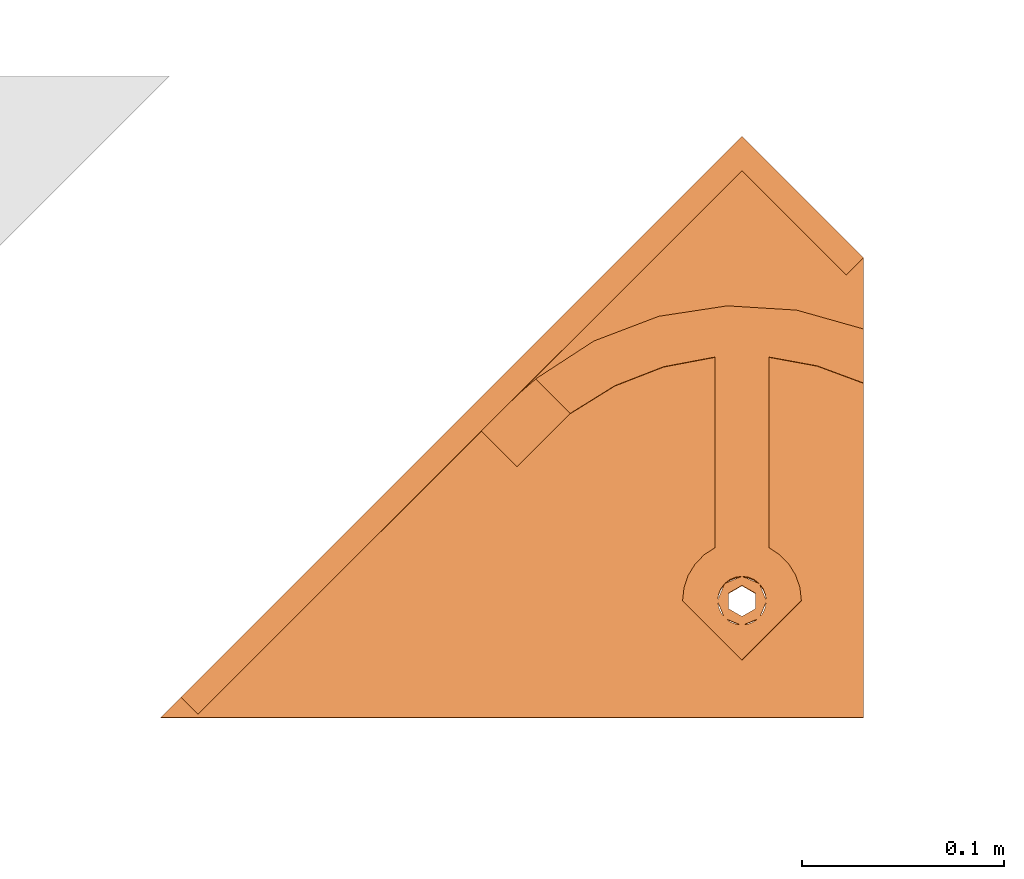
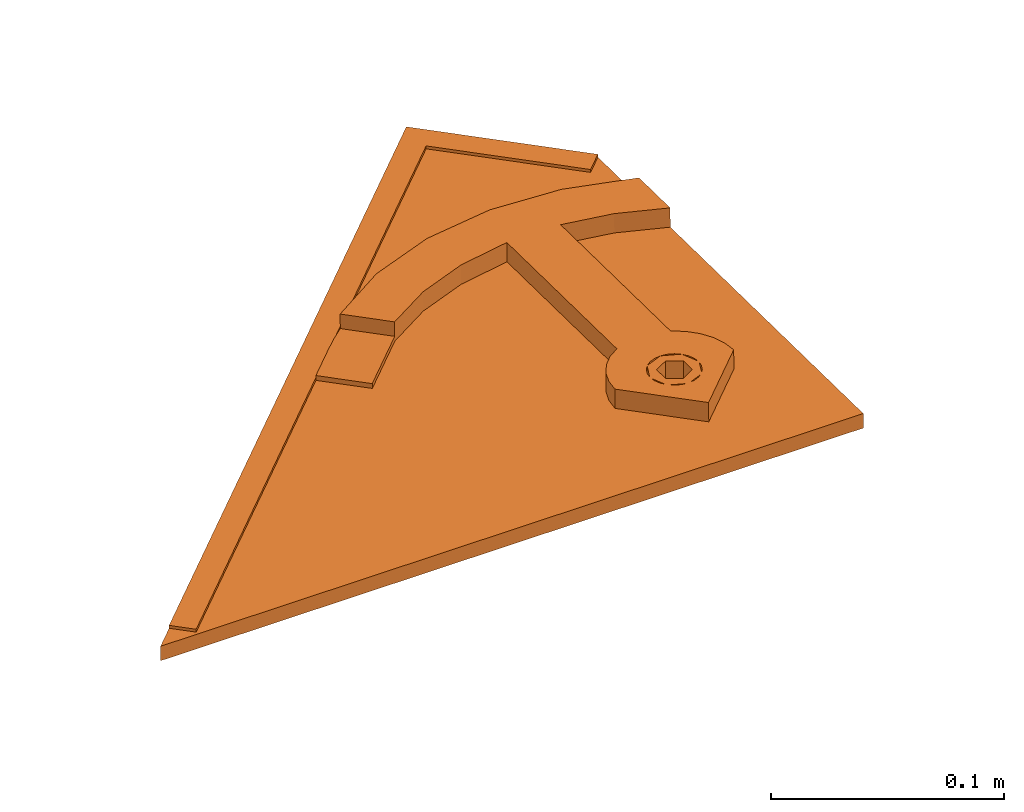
# One storey, part 131 of 133: 1 proxy.
"""IFC2X3 building model written with IfcOpenShell, lengths in millimetres."""

import ifcopenshell
import ifcopenshell.guid

model = None  # the IFC model being written
_history = None  # IfcOwnerHistory: only IFC2X3 demands one
_inside = {}  # id of a spatial element -> (the spatial element, [elements in it])
_under = {}  # id of a project, library or spatial element -> (it, [spatial elements below it])
_declared = {}  # id of a project -> (the project, [libraries it declares])
_typed = {}  # id of a type object -> (the type object, [elements of that type])
_made_of = {}  # id of a material, layer set ... -> (it, [elements and type objects made of it])


def new_model(schema):
    """Start an empty IFC model of exactly this schema.

    Asked for "IFC4X3", IfcOpenShell would pick the latest addendum, in which some entities
    have other attributes; the version numbers below select the first issue.
    IFC2X3 requires an IfcOwnerHistory on every rooted entity: one is made here for all.
    """
    global model, _history
    if schema == "IFC4X3":
        model = ifcopenshell.file(schema_version=(4, 3, 0, 0))
    else:
        model = ifcopenshell.file(schema=schema)
    _inside.clear()
    _under.clear()
    _declared.clear()
    _typed.clear()
    _made_of.clear()
    _history = None
    if model.schema == "IFC2X3":
        org = make("IfcOrganization", Name="unknown")
        user = make(
            "IfcPersonAndOrganization",
            ThePerson=make("IfcPerson", FamilyName="unknown"),
            TheOrganization=org,
        )
        app = make(
            "IfcApplication",
            ApplicationDeveloper=org,
            Version="unknown",
            ApplicationFullName="unknown",
            ApplicationIdentifier="unknown",
        )
        _history = make(
            "IfcOwnerHistory",
            OwningUser=user,
            OwningApplication=app,
            ChangeAction="ADDED",
            CreationDate=0,
        )
    return model


def make(cls, **values):
    """One entity of the class cls with the attributes given. An attribute that is None is left unset."""
    return model.create_entity(
        cls, **{name: value for name, value in values.items() if value is not None}
    )


def entity(cls, *values):
    """Any entity or typed value of the class cls, its attributes in the order of the schema. None: left unset."""
    e = model.create_entity(cls)
    for i, value in enumerate(values):
        if value is not None:
            e[i] = value
    return e


def rooted(cls, **values):
    """An entity with a GlobalId (a new one), such as an element, a storey or a relation."""
    return make(cls, GlobalId=ifcopenshell.guid.new(), OwnerHistory=_history, **values)


def si_unit(unit_type, name, prefix=None):
    """IfcSIUnit, for example si_unit("LENGTHUNIT", "METRE", prefix="MILLI")."""
    return make("IfcSIUnit", UnitType=unit_type, Prefix=prefix, Name=name)


def converted_unit(unit_type, name, factor, base, dimensions=None, offset=None):
    """IfcConversionBasedUnit, such as the inch: factor (a typed value) times the base unit."""
    return make(
        "IfcConversionBasedUnit"
        if offset is None
        else "IfcConversionBasedUnitWithOffset",
        ConversionOffset=offset,
        Dimensions=None
        if dimensions is None
        else entity("IfcDimensionalExponents", *dimensions),
        UnitType=unit_type,
        Name=name,
        ConversionFactor=make(
            "IfcMeasureWithUnit", ValueComponent=factor, UnitComponent=base
        ),
    )


def derived_unit(unit_type, elements):
    """IfcDerivedUnit: a product of units, each with its exponent."""
    return make(
        "IfcDerivedUnit",
        Elements=[
            make("IfcDerivedUnitElement", Unit=unit, Exponent=power)
            for unit, power in elements
        ],
        UnitType=unit_type,
    )


def assignment(units):
    """IfcUnitAssignment: the units of a project."""
    return None if units is None else make("IfcUnitAssignment", Units=units)


def point(xyz):
    """IfcCartesianPoint."""
    return None if xyz is None else make("IfcCartesianPoint", Coordinates=xyz)


def direction(xyz):
    """IfcDirection."""
    return None if xyz is None else make("IfcDirection", DirectionRatios=xyz)


def frame(location, z_axis=None, x_axis=None):
    """IfcAxis2Placement3D, a coordinate frame: its origin and axes. An axis left out is left unset."""
    return make(
        "IfcAxis2Placement3D",
        Location=point(location),
        Axis=direction(z_axis),
        RefDirection=direction(x_axis),
    )


def origin():
    """The frame at (0, 0, 0) with its axes left unset."""
    return frame((0.0, 0.0, 0.0))


def place(relative_to, where):
    """IfcLocalPlacement: puts the frame where relative to a parent placement (None: the world)."""
    return make(
        "IfcLocalPlacement", PlacementRelTo=relative_to, RelativePlacement=where
    )


def context(
    kind, dimensions, precision=None, world=None, true_north=None, identifier=None
):
    """IfcGeometricRepresentationContext, for example the 3D "Model" context."""
    return make(
        "IfcGeometricRepresentationContext",
        ContextIdentifier=identifier,
        ContextType=kind,
        CoordinateSpaceDimension=dimensions,
        Precision=precision,
        WorldCoordinateSystem=world,
        TrueNorth=true_north,
    )


def subcontext(parent, identifier, kind, view, scale=None):
    """IfcGeometricRepresentationSubContext, for example "Body" below "Model"."""
    return make(
        "IfcGeometricRepresentationSubContext",
        ContextIdentifier=identifier,
        ContextType=kind,
        ParentContext=parent,
        TargetScale=scale,
        TargetView=view,
    )


def project(units=None, contexts=None):
    """IfcProject with its units and contexts."""
    return rooted(
        "IfcProject",
        Name="project",
        RepresentationContexts=contexts,
        UnitsInContext=assignment(units),
    )


def spatial(cls, under=None, at=None, **own):
    """A site, building, storey or space (cls), placed at a placement, below another one or the project."""
    s = rooted(cls, ObjectPlacement=at, **own)
    if under is not None:
        _under.setdefault(under.id(), (under, []))[1].append(s)
    return s


def faces_of(points, faces, orient=None, outer=None):
    """IfcFace entities. A face is a list of loops; a loop is a list of indices into points, from 0.

    orient and outer hold one flag for each loop. By default every Orientation is true, the
    first loop of a face is its IfcFaceOuterBound and the others are IfcFaceBound.
    """
    made = []
    for i, loops in enumerate(faces):
        bounds = []
        for j, loop in enumerate(loops):
            is_outer = j == 0 if outer is None else outer[i][j]
            bounds.append(
                make(
                    "IfcFaceOuterBound" if is_outer else "IfcFaceBound",
                    Bound=make("IfcPolyLoop", Polygon=[points[k] for k in loop]),
                    Orientation=True if orient is None else orient[i][j],
                )
            )
        made.append(make("IfcFace", Bounds=bounds))
    return made


def faceted_brep(points, faces, orient=None, outer=None, voids=None):
    """IfcFacetedBrep: a solid bounded by flat faces; with voids (closed shells), ...WithVoids."""
    shared = [point(p) for p in points]
    hull = make("IfcClosedShell", CfsFaces=faces_of(shared, faces, orient, outer))
    if voids is None:
        return make("IfcFacetedBrep", Outer=hull)
    return make(
        "IfcFacetedBrepWithVoids",
        Outer=hull,
        Voids=[
            make(cls, CfsFaces=faces_of(shared, fs, o, b)) for cls, fs, o, b in voids
        ],
    )


def shape(context_of_items, identifier, shape_type, items):
    """IfcShapeRepresentation: the items that make up one representation, for example the "Body"."""
    return make(
        "IfcShapeRepresentation",
        ContextOfItems=context_of_items,
        RepresentationIdentifier=identifier,
        RepresentationType=shape_type,
        Items=items,
    )


def source(mapping_origin, context_of_items, identifier, shape_type, items):
    """IfcRepresentationMap: a shape defined once, which mapped items show again and again."""
    return make(
        "IfcRepresentationMap",
        MappingOrigin=mapping_origin,
        MappedRepresentation=shape(context_of_items, identifier, shape_type, items),
    )


def transform(
    local_origin,
    x_axis=None,
    y_axis=None,
    z_axis=None,
    scale=None,
    scale2=None,
    scale3=None,
    uniform=True,
):
    """IfcCartesianTransformationOperator3D, or its non-uniform kind. x_axis, y_axis, z_axis: its Axis1, 2, 3."""
    if uniform:
        return make(
            "IfcCartesianTransformationOperator3D",
            Axis1=direction(x_axis),
            Axis2=direction(y_axis),
            LocalOrigin=point(local_origin),
            Scale=scale,
            Axis3=direction(z_axis),
        )
    return make(
        "IfcCartesianTransformationOperator3DnonUniform",
        Axis1=direction(x_axis),
        Axis2=direction(y_axis),
        LocalOrigin=point(local_origin),
        Scale=scale,
        Axis3=direction(z_axis),
        Scale2=scale2,
        Scale3=scale3,
    )


def mapped(mapping_source, mapping_target):
    """IfcMappedItem: shows the shape of a source again, moved by a transform."""
    return make(
        "IfcMappedItem", MappingSource=mapping_source, MappingTarget=mapping_target
    )


def material(Name=None, Category=None):
    """IfcMaterial."""
    return make("IfcMaterial", Name=Name, Category=Category)


def material_list(materials):
    """IfcMaterialList."""
    return make("IfcMaterialList", Materials=materials)


def made_of(thing, what):
    """Note that an element or type object is made of a material, layer set ...; save() writes the relation."""
    if what is not None:
        _made_of.setdefault(what.id(), (what, []))[1].append(thing)
    return thing


def type_object(cls, material=None, **own):
    """A type object (cls), such as IfcWallType, which elements share."""
    return made_of(rooted(cls, **own), material)


def type_shapes(of_type, sources):
    """Give a type object the sources (RepresentationMaps) that its elements show as mapped items."""
    of_type.RepresentationMaps = sources


def element(
    cls,
    number,
    at=None,
    inside=None,
    cuts=None,
    type_object=None,
    material=None,
    context=None,
    identifier="Body",
    shape_type=None,
    held_by="IfcProductDefinitionShape",
    body=None,
    shapes=None,
    **own,
):
    """One element of the class cls, such as IfcWall. Its Tag is "e" and its number.

    at: its placement. inside: the storey or other place that contains it. cuts: it is an
    opening in that element (IfcRelVoidsElement). A single representation is given by context,
    identifier, shape_type and body (its items); several are given by shapes. held_by: the class
    of the entity that holds the representations. save() writes the other relations.
    """
    e = rooted(cls, Tag="e%d" % number, ObjectPlacement=at, **own)
    if body is not None:
        shapes = [shape(context, identifier, shape_type, body)]
    if shapes is not None:
        e.Representation = make(held_by, Representations=shapes)
    if inside is not None:
        _inside.setdefault(inside.id(), (inside, []))[1].append(e)
    if cuts is not None:
        rooted(
            "IfcRelVoidsElement", RelatingBuildingElement=cuts, RelatedOpeningElement=e
        )
    if type_object is not None:
        _typed.setdefault(type_object.id(), (type_object, []))[1].append(e)
    return made_of(e, material)


def aggregate(whole, parts):
    """IfcRelAggregates: a whole, such as a stair, and the parts it consists of."""
    return rooted("IfcRelAggregates", RelatingObject=whole, RelatedObjects=parts)


def save(model, path):
    """Write the relations noted so far, then the file.

    IfcRelAggregates (storeys below a building ...), IfcRelContainedInSpatialStructure (elements
    in a storey), IfcRelDefinesByType, IfcRelAssociatesMaterial and IfcRelDeclares: one each for
    every whole, place, type object, material and project.
    """
    for whole, parts in _under.values():
        aggregate(whole, parts)
    for where, things in _inside.values():
        rooted(
            "IfcRelContainedInSpatialStructure",
            RelatedElements=things,
            RelatingStructure=where,
        )
    for kind, things in _typed.values():
        rooted("IfcRelDefinesByType", RelatedObjects=things, RelatingType=kind)
    for what, things in _made_of.values():
        rooted("IfcRelAssociatesMaterial", RelatedObjects=things, RelatingMaterial=what)
    for by, libraries in _declared.values():
        rooted("IfcRelDeclares", RelatingContext=by, RelatedDefinitions=libraries)
    model.write(path)


model = new_model("IFC2X3")

# Units and contexts
model_context = context("Model", 3, precision=0.01, world=origin(), true_north=direction((6.12303176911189e-17, 1.0)))
body_context = subcontext(model_context, "Body", "Model", "MODEL_VIEW")
ifc_project = project(units=[si_unit("LENGTHUNIT", "METRE", prefix="MILLI"), si_unit("AREAUNIT", "SQUARE_METRE"), si_unit("VOLUMEUNIT", "CUBIC_METRE"), converted_unit("PLANEANGLEUNIT", "DEGREE", entity("IfcRatioMeasure", 0.0174532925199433), si_unit("PLANEANGLEUNIT", "RADIAN"), dimensions=[0, 0, 0, 0, 0, 0, 0]), si_unit("MASSUNIT", "GRAM", prefix="KILO"), derived_unit("MASSDENSITYUNIT", [(si_unit("MASSUNIT", "GRAM", prefix="KILO"), 1), (si_unit("LENGTHUNIT", "METRE"), -3)]), si_unit("TIMEUNIT", "SECOND"), si_unit("FREQUENCYUNIT", "HERTZ"), si_unit("THERMODYNAMICTEMPERATUREUNIT", "DEGREE_CELSIUS"), derived_unit("THERMALTRANSMITTANCEUNIT", [(si_unit("MASSUNIT", "GRAM", prefix="KILO"), 1), (si_unit("THERMODYNAMICTEMPERATUREUNIT", "KELVIN"), -1), (si_unit("TIMEUNIT", "SECOND"), -3)]), derived_unit("VOLUMETRICFLOWRATEUNIT", [(si_unit("LENGTHUNIT", "METRE"), 3), (si_unit("TIMEUNIT", "SECOND"), -1)]), si_unit("ELECTRICCURRENTUNIT", "AMPERE"), si_unit("ELECTRICVOLTAGEUNIT", "VOLT"), si_unit("POWERUNIT", "WATT"), si_unit("FORCEUNIT", "NEWTON", prefix="KILO"), si_unit("ILLUMINANCEUNIT", "LUX"), si_unit("LUMINOUSFLUXUNIT", "LUMEN"), si_unit("LUMINOUSINTENSITYUNIT", "CANDELA"), derived_unit("USERDEFINED", [(si_unit("MASSUNIT", "GRAM", prefix="KILO"), -1), (si_unit("LENGTHUNIT", "METRE"), -2), (si_unit("TIMEUNIT", "SECOND"), 3), (si_unit("LUMINOUSFLUXUNIT", "LUMEN"), 1)]), derived_unit("LINEARVELOCITYUNIT", [(si_unit("LENGTHUNIT", "METRE"), 1), (si_unit("TIMEUNIT", "SECOND"), -1)]), si_unit("PRESSUREUNIT", "PASCAL"), derived_unit("USERDEFINED", [(si_unit("LENGTHUNIT", "METRE"), -2), (si_unit("MASSUNIT", "GRAM", prefix="KILO"), 1), (si_unit("TIMEUNIT", "SECOND"), -2)])], contexts=[model_context])

# Site, building, storey
site_placement = place(None, origin())
site = spatial("IfcSite", under=ifc_project, at=site_placement, Name="Default", CompositionType="ELEMENT")
building_placement = place(site_placement, origin())
building = spatial("IfcBuilding", under=site, at=building_placement, CompositionType="ELEMENT")
storey_placement = place(building_placement, origin())
storey = spatial("IfcBuildingStorey", under=building, at=storey_placement, Name="Level 1", CompositionType="ELEMENT", Elevation=0.0)

# Proxy
ifc_material_1 = material(Name="Rubber - Sunstyle - Black")
ifc_material_2 = material(Name="Glass - Sunstyle - Tainted Black")
ifc_material_list_1 = material_list([ifc_material_1, ifc_material_2])
ifc_material_list_2 = material_list([ifc_material_1, ifc_material_2])
building_element_proxy_type = type_object("IfcBuildingElementProxyType", Name="Corner Bottom Small Right - Black", PredefinedType="NOTDEFINED", material=ifc_material_list_2)
shared_shape = source(origin(), body_context, "Body", "Brep", [
    faceted_brep([(18.5128067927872, 1.66621072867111, 12.2894055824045), (18.5128067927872, 1.69132847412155, 13.7891952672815), (10.0281203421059, 10.1760149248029, 13.6470978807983), (10.0281203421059, 10.1508971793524, 12.1473081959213), (287.661215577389, 287.706143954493, 7.49894842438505), (347.765291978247, 227.618920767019, 8.50525990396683), (339.280605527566, 219.134234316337, 8.64735729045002), (287.661215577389, 270.739150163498, 7.78310335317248), (287.661215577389, 287.731261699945, 8.9987381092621), (287.661215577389, 270.764267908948, 9.28289303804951), (339.280605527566, 219.159352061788, 10.1471469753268), (347.765291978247, 227.644038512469, 10.0050495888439)], [[[0, 1, 2, 3]], [[0, 3, 4, 5, 6, 7]], [[3, 2, 8, 4]], [[2, 1, 9, 10, 11, 8]], [[1, 0, 7, 9]], [[6, 5, 11, 10]], [[4, 8, 11, 5]], [[9, 7, 6, 10]]]),
    faceted_brep([(287.661538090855, 45.6778811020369, 21.5537219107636), (287.661538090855, 50.1772497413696, 21.4783686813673), (279.057833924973, 49.2411523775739, 21.494045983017), (296.265242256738, 49.2411523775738, 21.4940459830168), (294.30176668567, 54.0104499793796, 21.4141721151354), (299.829013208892, 57.8436502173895, 21.3499755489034), (294.30176668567, 61.6768504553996, 21.2857789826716), (296.265242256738, 66.4461480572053, 21.2059051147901), (287.661538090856, 65.5100506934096, 21.2215824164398), (287.661538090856, 70.0094193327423, 21.1462291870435), (279.057833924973, 66.4461480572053, 21.2059051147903), (281.021309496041, 61.6768504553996, 21.2857789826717), (275.494062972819, 57.8436502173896, 21.3499755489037), (281.021309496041, 54.0104499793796, 21.4141721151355), (281.021309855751, 61.4089276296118, 5.2880223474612), (287.661538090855, 65.2421276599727, 5.22382578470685), (281.021309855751, 53.7425275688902, 5.41641547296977), (287.661538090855, 49.9093275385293, 5.48061203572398), (294.30176632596, 53.7425275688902, 5.41641547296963), (294.30176632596, 61.4089276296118, 5.28802234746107), (279.057833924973, 48.9732297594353, 5.49628934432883), (287.661538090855, 45.4099584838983, 5.55596527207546), (275.494062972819, 57.575727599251, 5.35221891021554), (279.057833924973, 66.1782254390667, 5.20814847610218), (287.661538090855, 69.7414967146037, 5.14847254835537), (296.265242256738, 66.1782254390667, 5.208148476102), (299.829013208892, 57.5757275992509, 5.35221891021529), (296.265242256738, 48.9732297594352, 5.49628934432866)], [[[0, 1, 2]], [[1, 0, 3]], [[3, 4, 1]], [[4, 3, 5]], [[6, 4, 5]], [[5, 7, 6]], [[7, 8, 6]], [[8, 7, 9]], [[8, 9, 10]], [[10, 11, 8]], [[12, 11, 10]], [[2, 13, 12]], [[12, 13, 11]], [[13, 2, 1]], [[8, 11, 14, 15]], [[11, 13, 16, 14]], [[13, 1, 17, 16]], [[1, 4, 18, 17]], [[4, 6, 19, 18]], [[6, 8, 15, 19]], [[20, 17, 21]], [[17, 20, 16]], [[22, 16, 20]], [[14, 16, 22]], [[23, 14, 22]], [[15, 14, 23]], [[23, 24, 15]], [[24, 25, 15]], [[19, 15, 25]], [[19, 25, 26]], [[26, 18, 19]], [[26, 27, 18]], [[17, 18, 27]], [[27, 21, 17]], [[24, 23, 10, 9]], [[10, 23, 22, 12]], [[20, 21, 0, 2]], [[20, 2, 12, 22]], [[21, 27, 3, 0]], [[3, 27, 26, 5]], [[25, 24, 9, 7]], [[25, 7, 5, 26]]]),
    faceted_brep([(287.661215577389, 287.706143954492, 7.49894842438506), (281.661538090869, 67.8995946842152, 11.1801612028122), (284.555709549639, 69.0982316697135, 11.1600870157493), (279.176256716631, 65.9928385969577, 11.2120946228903), (347.765291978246, 227.618920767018, 8.50525990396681), (277.269233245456, 63.5079056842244, 11.2537110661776), (0.0, 0.125588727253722, 12.3152071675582), (276.070428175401, 60.6141400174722, 11.3021744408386), (275.661538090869, 57.5087469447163, 11.3541820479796), (276.070428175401, 54.4033538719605, 11.4061896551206), (277.269233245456, 51.5095882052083, 11.4546530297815), (279.176256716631, 49.024655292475, 11.4962694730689), (281.661538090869, 47.1178992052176, 11.5282028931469), (347.765291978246, 0.125588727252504, 12.3152071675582), (299.252648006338, 60.6141400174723, 11.3021744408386), (284.555709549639, 45.9192622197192, 11.5482770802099), (287.661538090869, 45.5104294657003, 11.5551240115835), (290.7673666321, 45.9192622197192, 11.5482770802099), (293.661538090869, 47.1178992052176, 11.5282028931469), (296.146819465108, 49.024655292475, 11.4962694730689), (298.053842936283, 51.5095882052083, 11.4546530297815), (299.252648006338, 54.4033538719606, 11.4061896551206), (299.661538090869, 57.5087469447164, 11.3541820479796), (298.053842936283, 63.5079056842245, 11.2537110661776), (287.661538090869, 69.5070644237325, 11.1532400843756), (290.7673666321, 69.0982316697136, 11.1600870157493), (293.661538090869, 67.8995946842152, 11.1801612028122), (296.146819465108, 65.9928385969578, 11.2120946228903), (284.555709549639, 45.7936734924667, 4.04932865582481), (347.765291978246, 0.0, 4.81625874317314), (281.661538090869, 46.9923104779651, 4.02925446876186), (287.661538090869, 45.3848407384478, 4.05617558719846), (290.7673666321, 45.7936734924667, 4.04932865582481), (293.661538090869, 46.9923104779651, 4.02925446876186), (296.146819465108, 48.8990665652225, 3.9973210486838), (298.053842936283, 51.3839994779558, 3.95570460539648), (299.252648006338, 54.2777651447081, 3.9072412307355), (299.661538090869, 57.383158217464, 3.8552336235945), (299.252648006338, 60.4885512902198, 3.8032260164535), (347.765291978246, 227.493332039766, 1.00631147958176), (298.053842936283, 63.382316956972, 3.75476264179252), (296.146819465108, 65.8672498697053, 3.7131461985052), (293.661538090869, 67.7740059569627, 3.68121277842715), (290.7673666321, 68.9726429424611, 3.6611385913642), (287.661538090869, 69.38147569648, 3.65429165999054), (284.555709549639, 68.972642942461, 3.6611385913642), (287.661215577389, 287.58055522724, 0.0), (281.661538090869, 67.7740059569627, 3.68121277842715), (279.176256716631, 65.8672498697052, 3.7131461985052), (277.269233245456, 63.3823169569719, 3.75476264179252), (0.0, 0.0, 4.81625874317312), (276.070428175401, 60.4885512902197, 3.8032260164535), (275.661538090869, 57.3831582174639, 3.8552336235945), (276.070428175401, 54.277765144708, 3.90724123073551), (277.269233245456, 51.3839994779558, 3.95570460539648), (279.176256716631, 48.8990665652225, 3.9973210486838)], [[[0, 1, 2]], [[1, 0, 3]], [[0, 2, 4]], [[5, 3, 0]], [[6, 5, 0]], [[6, 7, 5]], [[6, 8, 7]], [[9, 8, 6]], [[10, 9, 6]], [[11, 10, 6]], [[6, 12, 11]], [[13, 12, 6]], [[4, 14, 13]], [[15, 12, 13]], [[13, 16, 15]], [[17, 16, 13]], [[18, 17, 13]], [[13, 19, 18]], [[19, 13, 20]], [[21, 20, 13]], [[22, 21, 13]], [[22, 13, 14]], [[23, 14, 4]], [[24, 4, 2]], [[4, 24, 25]], [[4, 25, 26]], [[26, 27, 4]], [[27, 23, 4]], [[28, 29, 30]], [[29, 28, 31]], [[32, 29, 31]], [[29, 32, 33]], [[29, 33, 34]], [[34, 35, 29]], [[35, 36, 29]], [[36, 37, 29]], [[29, 37, 38]], [[38, 39, 29]], [[38, 40, 39]], [[40, 41, 39]], [[42, 39, 41]], [[39, 42, 43]], [[43, 44, 39]], [[44, 45, 39]], [[45, 46, 39]], [[46, 45, 47]], [[47, 48, 46]], [[48, 49, 46]], [[46, 49, 50]], [[51, 50, 49]], [[52, 50, 51]], [[50, 52, 53]], [[53, 54, 50]], [[54, 55, 50]], [[55, 30, 50]], [[30, 29, 50]], [[8, 52, 51, 7]], [[7, 51, 49, 5]], [[1, 3, 48, 47]], [[49, 48, 3, 5]], [[2, 1, 47, 45]], [[44, 24, 2, 45]], [[25, 43, 42, 26]], [[26, 42, 41, 27]], [[14, 23, 40, 38]], [[41, 40, 23, 27]], [[22, 14, 38, 37]], [[25, 24, 44, 43]], [[22, 37, 36, 21]], [[21, 36, 35, 20]], [[18, 19, 34, 33]], [[35, 34, 19, 20]], [[17, 18, 33, 32]], [[31, 16, 17, 32]], [[15, 28, 30, 12]], [[12, 30, 55, 11]], [[9, 10, 54, 53]], [[55, 54, 10, 11]], [[8, 9, 53, 52]], [[15, 16, 31, 28]], [[6, 0, 46, 50]], [[4, 13, 29, 39]], [[0, 4, 39, 46]], [[13, 6, 50, 29]]]),
    faceted_brep([(173.410569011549, 156.562402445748, 12.1956303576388), (158.714824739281, 141.870778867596, 12.4416784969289), (176.392494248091, 124.195587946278, 12.7376939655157), (202.717142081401, 150.516544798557, 12.2968834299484), (185.633966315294, 167.59732533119, 12.0108228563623), (179.381564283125, 162.235677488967, 12.100617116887), (287.661538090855, 28.4583428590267, 11.8407040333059), (287.661538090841, 45.8453327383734, 11.5495152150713), (290.767366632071, 46.2541654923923, 11.5426682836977), (284.555709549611, 46.2541654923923, 11.5426682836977), (293.661538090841, 47.4528024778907, 11.5225940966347), (296.14681946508, 49.3595585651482, 11.4906606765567), (317.050966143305, 57.8436502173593, 11.3485732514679), (281.661538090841, 47.4528024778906, 11.5225940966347), (279.176256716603, 49.3595585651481, 11.4906606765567), (258.272110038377, 57.8436502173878, 11.3485732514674), (277.269233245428, 51.8444914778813, 11.4490442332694), (276.070428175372, 54.7382571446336, 11.4005808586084), (275.661538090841, 57.8436502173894, 11.3485732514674), (258.981985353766, 64.2631655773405, 11.2410623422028), (276.070428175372, 60.9490432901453, 11.2965656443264), (261.07731849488, 70.3725656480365, 11.1387450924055), (277.269233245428, 63.8428089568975, 11.2481022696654), (264.456887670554, 75.8767162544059, 11.0465642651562), (279.176256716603, 66.3277418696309, 11.2064858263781), (268.957431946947, 80.5097217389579, 10.9689729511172), (281.661538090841, 68.2344979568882, 11.1745524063), (274.361538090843, 84.0477699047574, 10.9097194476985), (284.555709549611, 69.4331349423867, 11.1544782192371), (287.661538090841, 69.8419676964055, 11.1476312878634), (300.961538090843, 84.0477699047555, 10.9097194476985), (274.361538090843, 178.366592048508, 9.33011386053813), (300.961538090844, 178.366592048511, 9.33011386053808), (280.444300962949, 203.676957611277, 8.90622821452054), (246.498840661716, 198.507723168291, 8.99280002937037), (248.891795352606, 173.551711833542, 9.41075112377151), (214.412366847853, 186.283197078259, 9.19753042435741), (224.737204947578, 164.148078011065, 9.56823859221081), (202.718339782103, 150.475879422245, 9.79721389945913), (185.633966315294, 167.555462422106, 9.51117338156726), (179.381564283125, 162.193814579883, 9.60096764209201), (173.410569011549, 156.520539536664, 9.69598088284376), (176.392494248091, 124.153725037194, 10.2380444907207), (158.714824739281, 141.828915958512, 9.94202902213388), (314.715705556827, 201.557447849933, 8.94172472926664), (324.921523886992, 173.975206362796, 9.40365864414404), (347.765291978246, 192.244915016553, 9.09768648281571), (347.765291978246, 165.518682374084, 9.54528437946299), (290.767366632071, 69.4331349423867, 11.1544782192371), (293.661538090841, 68.2344979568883, 11.1745524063), (306.365644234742, 80.5097217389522, 10.9689729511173), (296.14681946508, 66.3277418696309, 11.2064858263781), (310.866188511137, 75.8767162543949, 11.0465642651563), (298.053842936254, 63.8428089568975, 11.2481022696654), (314.245757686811, 70.3725656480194, 11.1387450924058), (299.25264800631, 60.9490432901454, 11.2965656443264), (316.341090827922, 64.2631655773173, 11.2410623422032), (299.661538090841, 57.8436502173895, 11.3485732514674), (299.25264800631, 54.7382571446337, 11.4005808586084), (298.053842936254, 51.8444914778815, 11.4490442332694), (248.891795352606, 173.719163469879, 19.4093490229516), (246.498840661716, 198.675174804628, 18.9913979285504), (214.412366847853, 186.450648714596, 19.1961283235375), (224.737204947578, 164.315529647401, 19.5668364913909), (274.361538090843, 178.534043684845, 19.3287117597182), (280.444300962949, 203.844409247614, 18.9048261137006), (300.961538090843, 178.534043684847, 19.3287117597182), (274.361538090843, 84.215221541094, 20.9083173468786), (300.961538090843, 84.2152215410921, 20.9083173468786), (287.661538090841, 70.0094193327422, 21.1462291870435), (284.555709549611, 69.6005865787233, 21.1530761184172), (281.661538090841, 68.4019495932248, 21.1731503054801), (268.957431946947, 80.6771733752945, 20.9675708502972), (279.176256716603, 66.4951935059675, 21.2050837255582), (264.456887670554, 76.0441678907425, 21.0451621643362), (277.269233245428, 64.0102605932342, 21.2467001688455), (261.07731849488, 70.5400172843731, 21.1373429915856), (276.070428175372, 61.1164949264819, 21.2951635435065), (258.981985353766, 64.4306172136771, 21.2396602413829), (275.661538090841, 58.0111018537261, 21.3471711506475), (258.272110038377, 58.0111018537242, 21.3471711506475), (276.070428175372, 54.9057087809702, 21.3991787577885), (277.269233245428, 52.0119431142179, 21.4476421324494), (279.176256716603, 49.5270102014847, 21.4892585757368), (287.661538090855, 28.6257944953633, 21.839301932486), (281.661538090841, 47.6202541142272, 21.5211919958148), (284.555709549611, 46.4216171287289, 21.5412661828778), (287.661538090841, 46.01278437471, 21.5481131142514), (290.767366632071, 46.4216171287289, 21.5412661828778), (293.661538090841, 47.6202541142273, 21.5211919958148), (296.14681946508, 49.5270102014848, 21.4892585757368), (317.050966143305, 58.0111018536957, 21.347171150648), (298.053842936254, 52.0119431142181, 21.4476421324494), (299.25264800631, 54.9057087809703, 21.3991787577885), (299.661538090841, 58.0111018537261, 21.3471711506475), (316.341090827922, 64.4306172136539, 21.2396602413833), (299.25264800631, 61.116494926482, 21.2951635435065), (314.245757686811, 70.540017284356, 21.1373429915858), (298.053842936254, 64.0102605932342, 21.2467001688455), (310.866188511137, 76.0441678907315, 21.0451621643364), (296.14681946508, 66.4951935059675, 21.2050837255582), (306.365644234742, 80.6771733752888, 20.9675708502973), (293.661538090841, 68.4019495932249, 21.1731503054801), (290.767366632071, 69.6005865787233, 21.1530761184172), (314.715705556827, 201.72489948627, 18.9403226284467), (324.921523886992, 174.142657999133, 19.4022565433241), (347.765291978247, 192.412366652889, 19.0962843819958), (347.765291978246, 165.68613401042, 19.5438822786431), (202.717142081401, 150.642133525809, 19.7958318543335), (185.633966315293, 167.722914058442, 19.5097712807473)], [[[0, 1, 2, 3, 4, 5]], [[6, 7, 8]], [[7, 6, 9]], [[6, 8, 10]], [[10, 11, 6]], [[6, 11, 12]], [[13, 9, 6]], [[14, 13, 6]], [[14, 6, 15]], [[15, 16, 14]], [[16, 15, 17]], [[17, 15, 18]], [[19, 18, 15]], [[20, 18, 19]], [[19, 21, 20]], [[20, 21, 22]], [[23, 22, 21]], [[23, 24, 22]], [[23, 25, 24]], [[25, 26, 24]], [[26, 25, 27]], [[28, 26, 27]], [[27, 29, 28]], [[30, 29, 27]], [[30, 27, 31]], [[30, 31, 32]], [[31, 33, 32]], [[33, 31, 34]], [[35, 34, 31]], [[34, 35, 36]], [[37, 36, 35]], [[37, 38, 36]], [[36, 38, 39]], [[40, 39, 38]], [[40, 38, 41]], [[38, 42, 41]], [[42, 43, 41]], [[32, 33, 44]], [[44, 45, 32]], [[45, 44, 46]], [[46, 47, 45]], [[48, 29, 30]], [[30, 49, 48]], [[49, 30, 50]], [[50, 51, 49]], [[50, 52, 51]], [[51, 52, 53]], [[54, 53, 52]], [[54, 55, 53]], [[56, 55, 54]], [[57, 55, 56]], [[12, 57, 56]], [[58, 57, 12]], [[12, 11, 59]], [[58, 12, 59]], [[1, 0, 41, 43]], [[2, 1, 43, 42]], [[4, 39, 40, 5]], [[40, 41, 0, 5]], [[3, 2, 42, 38]], [[60, 61, 62]], [[63, 60, 62]], [[64, 61, 60]], [[61, 64, 65]], [[66, 65, 64]], [[66, 64, 67]], [[66, 67, 68]], [[68, 67, 69]], [[67, 70, 69]], [[71, 70, 67]], [[71, 67, 72]], [[72, 73, 71]], [[73, 72, 74]], [[73, 74, 75]], [[74, 76, 75]], [[75, 76, 77]], [[78, 77, 76]], [[78, 79, 77]], [[78, 80, 79]], [[79, 80, 81]], [[82, 81, 80]], [[83, 82, 80]], [[83, 80, 84]], [[85, 83, 84]], [[86, 85, 84]], [[87, 86, 84]], [[87, 84, 88]], [[89, 88, 84]], [[89, 84, 90]], [[91, 90, 84]], [[92, 90, 91]], [[91, 93, 92]], [[93, 91, 94]], [[95, 94, 91]], [[95, 96, 94]], [[95, 97, 96]], [[96, 97, 98]], [[99, 98, 97]], [[98, 99, 100]], [[100, 99, 101]], [[101, 68, 102]], [[100, 101, 102]], [[102, 68, 103]], [[103, 68, 69]], [[66, 104, 65]], [[105, 104, 66]], [[105, 106, 104]], [[106, 105, 107]], [[108, 63, 62]], [[62, 109, 108]], [[66, 68, 30, 32]], [[95, 91, 12, 56]], [[97, 95, 56, 54]], [[54, 52, 99, 97]], [[101, 99, 52, 50]], [[68, 101, 50, 30]], [[91, 84, 6, 12]], [[84, 80, 15, 6]], [[72, 67, 27, 25]], [[74, 72, 25, 23]], [[23, 21, 76, 74]], [[78, 76, 21, 19]], [[80, 78, 19, 15]], [[67, 64, 31, 27]], [[104, 106, 46, 44]], [[65, 104, 44, 33]], [[33, 34, 61, 65]], [[62, 61, 34, 36]], [[4, 109, 62, 36, 39]], [[79, 18, 20, 77]], [[77, 20, 22, 75]], [[71, 73, 24, 26]], [[22, 24, 73, 75]], [[70, 71, 26, 28]], [[29, 69, 70, 28]], [[103, 48, 49, 102]], [[102, 49, 51, 100]], [[96, 98, 53, 55]], [[51, 53, 98, 100]], [[94, 96, 55, 57]], [[103, 69, 29, 48]], [[94, 57, 58, 93]], [[93, 58, 59, 92]], [[89, 90, 11, 10]], [[59, 11, 90, 92]], [[88, 89, 10, 8]], [[7, 87, 88, 8]], [[86, 9, 13, 85]], [[85, 13, 14, 83]], [[81, 82, 16, 17]], [[14, 16, 82, 83]], [[79, 81, 17, 18]], [[86, 87, 7, 9]], [[108, 109, 4, 3]], [[32, 45, 105, 66]], [[47, 107, 105, 45]], [[3, 37, 63, 108]], [[3, 38, 37]], [[35, 31, 64, 60]], [[37, 35, 60, 63]], [[106, 107, 47, 46]]]),
])
type_shapes(building_element_proxy_type, [shared_shape])
proxy_placement = place(storey_placement, frame((-37.9956698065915, 8476.76208647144, -1.49476068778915)))
element("IfcBuildingElementProxy", 1, at=proxy_placement, inside=storey, type_object=building_element_proxy_type, material=ifc_material_list_1, Name="Roofing_Panels_SunStyle_Tile_Corner-Bottom-Small-Right:Corner Bottom Small Right - Black", ObjectType="Roofing_Panels_SunStyle_Tile_Corner-Bottom-Small-Right:Corner Bottom Small Right - Black", context=body_context, shape_type="MappedRepresentation", body=[
    mapped(shared_shape, transform((0.0, 0.0, 0.0), scale=1.0)),
])

save(model, "model.ifc")
